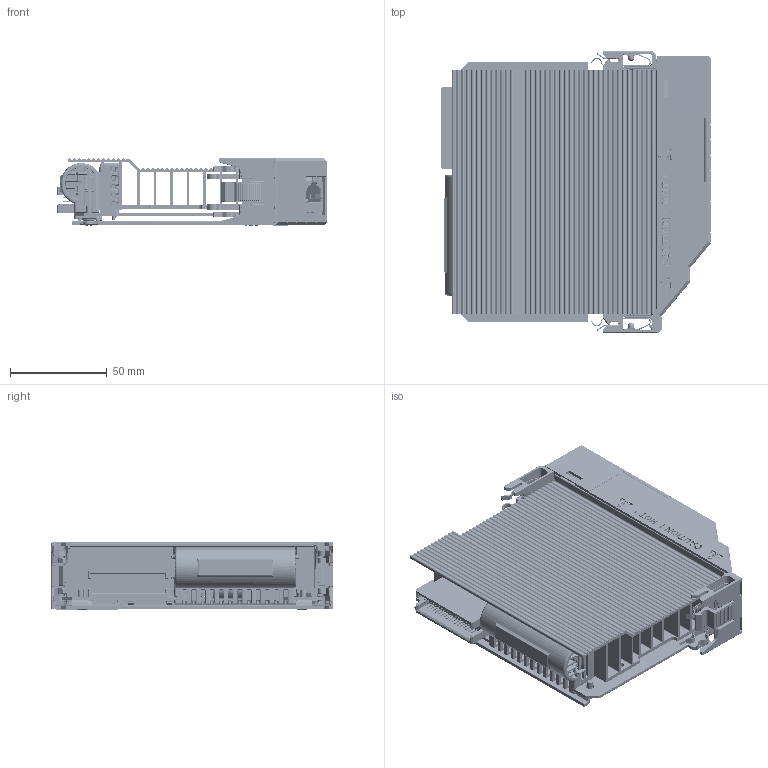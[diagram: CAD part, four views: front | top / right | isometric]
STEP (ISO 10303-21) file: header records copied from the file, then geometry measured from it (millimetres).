
FILE_DESCRIPTION((''),'2;1');
FILE_NAME('L8Z-FLEX-E2C-MODULE-3_ASM','2014-09-08T',('holderm'),('Rockwell Automation'),'PRO/ENGINEER BY PARAMETRIC TECHNOLOGY CORPORATION, 2012480','PRO/ENGINEER BY PARAMETRIC TECHNOLOGY CORPORATION, 2012480','');
FILE_SCHEMA(('CONFIG_CONTROL_DESIGN'));
Products named in the file (28): L8Z-FLEX-E2C-MPCBB-3; L8Z-FLEX-E2C-MPCBC-3; CN_PN-248993; CN_PN-41694; CN_94195118; L8Z-FLEX-E2C-MPCBC-3_ASM; L8Z-FLEX-E2C-MPCBD-3; L8Z-FLEX-E2C-MPCBD-3_ASM; L8Z-FLEX-E2C-MPCBE-3; PCP_PN-26534; L8Z-FLEX-E2C-MPCBE-3_ASM; L8Z-FLEX-E2C-MPCBA-3_ASM; 10001042084; 10000244955; 10000520383; 100000019169; L8Z-FLEX-E2C-RHT-CVR-ASY-2_ASM; 10001042082; 10001042083; 10000876675; 222403-Q08; 10001042085; 10001042086; 10001042088; 10001042089; 10001088622; L8Z-FLEX-E2C-DISP-CVR-ASY-2_ASM; L8Z-FLEX-E2C-MODULE-3_ASM
Assembly tree (30 placements, depth 4):
  L8Z-FLEX-E2C-MODULE-3_ASM
    L8Z-FLEX-E2C-MPCBA-3_ASM
      L8Z-FLEX-E2C-MPCBB-3
      L8Z-FLEX-E2C-MPCBC-3_ASM
        L8Z-FLEX-E2C-MPCBC-3
        CN_PN-248993
        CN_PN-41694
        CN_94195118
      L8Z-FLEX-E2C-MPCBD-3_ASM
        L8Z-FLEX-E2C-MPCBD-3
      L8Z-FLEX-E2C-MPCBE-3_ASM
        L8Z-FLEX-E2C-MPCBE-3
        PCP_PN-26534
    L8Z-FLEX-E2C-RHT-CVR-ASY-2_ASM
      10001042084
      10000244955
      10000520383
      100000019169
    10001042082
    10001042083
    10000876675
    222403-Q08  x4
    10001042085
    10001042086
    10001042088
    L8Z-FLEX-E2C-DISP-CVR-ASY-2_ASM
      10001042089
      10001088622
Bounding box: 139.64 x 145.8 x 34.94 mm (x, y, z)
Volume: 185808.4 mm3; surface area: 256171.4 mm2
Topology: 66 solids, 82 shells, 15096 faces, 40258 edges, 25860 vertices
Faces by surface type: plane 9446, cylinder 2512, extrusion 1455, bspline 913, sphere 287, torus 244, cone 239
Entity records: 523354 total; most frequent: CARTESIAN_POINT 161237, ORIENTED_EDGE 79568, DIRECTION 65679, EDGE_CURVE 39800, VECTOR 30945, LINE 29490, VERTEX_POINT 25593, AXIS2_PLACEMENT_3D 17367
